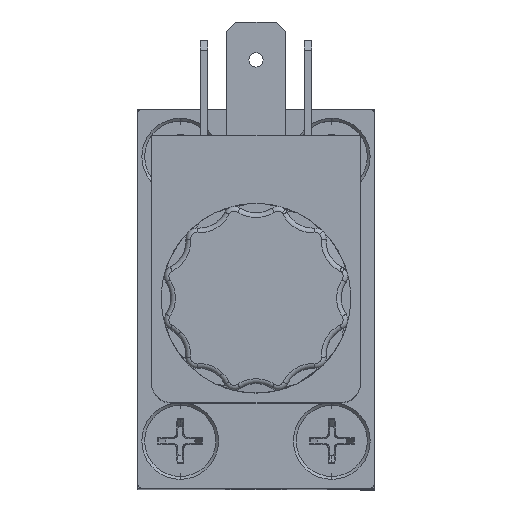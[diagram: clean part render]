
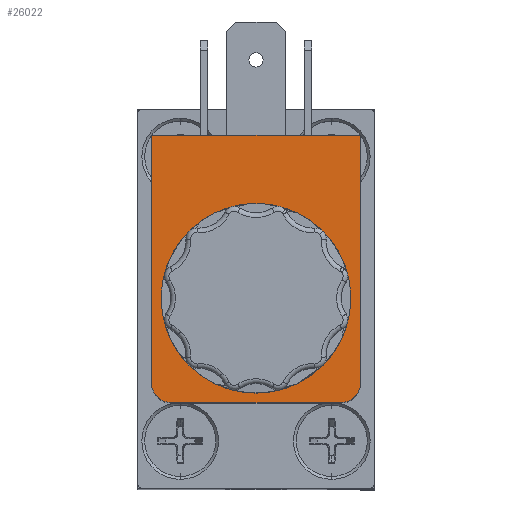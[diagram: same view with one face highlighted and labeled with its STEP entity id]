
A CAD part, top view. The second image highlights one B-rep face of the part: STEP entity #26022.
In plain terms, the highlighted planar face has unit normal (0, 0, 1).
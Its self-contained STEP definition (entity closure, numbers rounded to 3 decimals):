
#919 = AXIS2_PLACEMENT_3D ( 'NONE', #7568, #7570, #7571 ) ;
#933 = AXIS2_PLACEMENT_3D ( 'NONE', #7692, #7699, #7700 ) ;
#938 = AXIS2_PLACEMENT_3D ( 'NONE', #7801, #7808, #7809 ) ;
#945 = AXIS2_PLACEMENT_3D ( 'NONE', #7885, #7888, #7889 ) ;
#955 = AXIS2_PLACEMENT_3D ( 'NONE', #7927, #7932, #7933 ) ;
#959 = AXIS2_PLACEMENT_3D ( 'NONE', #7934, #7952, #7953 ) ;
#2827 = EDGE_LOOP ( 'NONE', ( #22651, #22675, #23096, #22657, #13345, #23156, #23155, #22666 ) ) ;
#2854 = EDGE_LOOP ( 'NONE', ( #22682, #13378 ) ) ;
#5406 = CIRCLE ( 'NONE', #919, 2. ) ;
#5434 = LINE ( 'NONE', #7662, #5443 ) ;
#5443 = VECTOR ( 'NONE', #7663, 1000. ) ;
#5470 = CIRCLE ( 'NONE', #933, 8.3 ) ;
#5491 = LINE ( 'NONE', #7781, #5492 ) ;
#5492 = VECTOR ( 'NONE', #7782, 1000. ) ;
#5514 = CIRCLE ( 'NONE', #938, 2. ) ;
#5574 = VECTOR ( 'NONE', #7926, 1000. ) ;
#5575 = CIRCLE ( 'NONE', #945, 2. ) ;
#5586 = LINE ( 'NONE', #7918, #5589 ) ;
#5587 = LINE ( 'NONE', #7925, #5574 ) ;
#5589 = VECTOR ( 'NONE', #7919, 1000. ) ;
#5603 = CIRCLE ( 'NONE', #955, 2. ) ;
#5619 = CIRCLE ( 'NONE', #959, 8.3 ) ;
#6403 = CARTESIAN_POINT ( 'NONE',  ( 11., 9., 30.5 ) ) ;
#6416 = CARTESIAN_POINT ( 'NONE',  ( 9., 11., 30.5 ) ) ;
#6436 = CARTESIAN_POINT ( 'NONE',  ( -11., 9., 30.5 ) ) ;
#6441 = CARTESIAN_POINT ( 'NONE',  ( -11., -17.2, 30.5 ) ) ;
#6452 = CARTESIAN_POINT ( 'NONE',  ( -9., 11., 30.5 ) ) ;
#6499 = CARTESIAN_POINT ( 'NONE',  ( 11., -17.2, 30.5 ) ) ;
#6575 = CARTESIAN_POINT ( 'NONE',  ( -10.414, 10.414, 30.5 ) ) ;
#6986 = CARTESIAN_POINT ( 'NONE',  ( -8.3, 0., 30.5 ) ) ;
#7052 = CARTESIAN_POINT ( 'NONE',  ( 8.3, 0., 30.5 ) ) ;
#7116 = CARTESIAN_POINT ( 'NONE',  ( 10.414, 10.414, 30.5 ) ) ;
#7568 = CARTESIAN_POINT ( 'NONE',  ( -9., 9., 30.5 ) ) ;
#7570 = DIRECTION ( 'NONE',  ( 0., 0., -1. ) ) ;
#7571 = DIRECTION ( 'NONE',  ( -0.707, 0.707, 0. ) ) ;
#7662 = CARTESIAN_POINT ( 'NONE',  ( 11., -17.2, 30.5 ) ) ;
#7663 = DIRECTION ( 'NONE',  ( -1., 0., 0. ) ) ;
#7692 = CARTESIAN_POINT ( 'NONE',  ( 0., 0., 30.5 ) ) ;
#7699 = DIRECTION ( 'NONE',  ( 0., 0., -1. ) ) ;
#7700 = DIRECTION ( 'NONE',  ( -1., 0., 0. ) ) ;
#7781 = CARTESIAN_POINT ( 'NONE',  ( -11., -17.2, 30.5 ) ) ;
#7782 = DIRECTION ( 'NONE',  ( 0., 1., 0. ) ) ;
#7801 = CARTESIAN_POINT ( 'NONE',  ( -9., 9., 30.5 ) ) ;
#7808 = DIRECTION ( 'NONE',  ( 0., 0., -1. ) ) ;
#7809 = DIRECTION ( 'NONE',  ( -0.707, 0.707, 0. ) ) ;
#7885 = CARTESIAN_POINT ( 'NONE',  ( 9., 9., 30.5 ) ) ;
#7888 = DIRECTION ( 'NONE',  ( 0., 0., -1. ) ) ;
#7889 = DIRECTION ( 'NONE',  ( 0.707, 0.707, 0. ) ) ;
#7918 = CARTESIAN_POINT ( 'NONE',  ( 11., 9., 30.5 ) ) ;
#7919 = DIRECTION ( 'NONE',  ( 0., -1., 0. ) ) ;
#7925 = CARTESIAN_POINT ( 'NONE',  ( -9., 11., 30.5 ) ) ;
#7926 = DIRECTION ( 'NONE',  ( 1., 0., 0. ) ) ;
#7927 = CARTESIAN_POINT ( 'NONE',  ( 9., 9., 30.5 ) ) ;
#7932 = DIRECTION ( 'NONE',  ( 0., 0., -1. ) ) ;
#7933 = DIRECTION ( 'NONE',  ( 0.707, 0.707, 0. ) ) ;
#7934 = CARTESIAN_POINT ( 'NONE',  ( 0., 0., 30.5 ) ) ;
#7952 = DIRECTION ( 'NONE',  ( 0., 0., -1. ) ) ;
#7953 = DIRECTION ( 'NONE',  ( -1., 0., 0. ) ) ;
#8600 = VERTEX_POINT ( 'NONE', #6403 ) ;
#8614 = VERTEX_POINT ( 'NONE', #6416 ) ;
#8634 = VERTEX_POINT ( 'NONE', #6436 ) ;
#8639 = VERTEX_POINT ( 'NONE', #6441 ) ;
#8650 = VERTEX_POINT ( 'NONE', #6452 ) ;
#8697 = VERTEX_POINT ( 'NONE', #6499 ) ;
#8773 = VERTEX_POINT ( 'NONE', #6575 ) ;
#9184 = VERTEX_POINT ( 'NONE', #6986 ) ;
#9250 = VERTEX_POINT ( 'NONE', #7052 ) ;
#9314 = VERTEX_POINT ( 'NONE', #7116 ) ;
#11177 = AXIS2_PLACEMENT_3D ( 'NONE', #14867, #14879, #14880 ) ;
#13345 = ORIENTED_EDGE ( 'NONE', *, *, #25052, .F. ) ;
#13378 = ORIENTED_EDGE ( 'NONE', *, *, #25030, .T. ) ;
#14867 = CARTESIAN_POINT ( 'NONE',  ( 0., -3.1, 30.5 ) ) ;
#14871 = PLANE ( 'NONE',  #11177 ) ;
#14879 = DIRECTION ( 'NONE',  ( 0., 0., 1. ) ) ;
#14880 = DIRECTION ( 'NONE',  ( 0.707, 0.707, 0. ) ) ;
#16068 = FACE_OUTER_BOUND ( 'NONE', #2827, .T. ) ;
#16078 = FACE_BOUND ( 'NONE', #2854, .T. ) ;
#22651 = ORIENTED_EDGE ( 'NONE', *, *, #25117, .F. ) ;
#22657 = ORIENTED_EDGE ( 'NONE', *, *, #25064, .F. ) ;
#22666 = ORIENTED_EDGE ( 'NONE', *, *, #25099, .F. ) ;
#22675 = ORIENTED_EDGE ( 'NONE', *, *, #25114, .F. ) ;
#22682 = ORIENTED_EDGE ( 'NONE', *, *, #25126, .T. ) ;
#23096 = ORIENTED_EDGE ( 'NONE', *, *, #24983, .F. ) ;
#23155 = ORIENTED_EDGE ( 'NONE', *, *, #25111, .F. ) ;
#23156 = ORIENTED_EDGE ( 'NONE', *, *, #25016, .F. ) ;
#24983 = EDGE_CURVE ( 'NONE', #8773, #8650, #5406, .T. ) ;
#25016 = EDGE_CURVE ( 'NONE', #8697, #8639, #5434, .T. ) ;
#25030 = EDGE_CURVE ( 'NONE', #9250, #9184, #5470, .T. ) ;
#25052 = EDGE_CURVE ( 'NONE', #8639, #8634, #5491, .T. ) ;
#25064 = EDGE_CURVE ( 'NONE', #8634, #8773, #5514, .T. ) ;
#25099 = EDGE_CURVE ( 'NONE', #9314, #8600, #5575, .T. ) ;
#25111 = EDGE_CURVE ( 'NONE', #8600, #8697, #5586, .T. ) ;
#25114 = EDGE_CURVE ( 'NONE', #8650, #8614, #5587, .T. ) ;
#25117 = EDGE_CURVE ( 'NONE', #8614, #9314, #5603, .T. ) ;
#25126 = EDGE_CURVE ( 'NONE', #9184, #9250, #5619, .T. ) ;
#26022 = ADVANCED_FACE ( 'NONE', ( #16068, #16078 ), #14871, .T. ) ;
